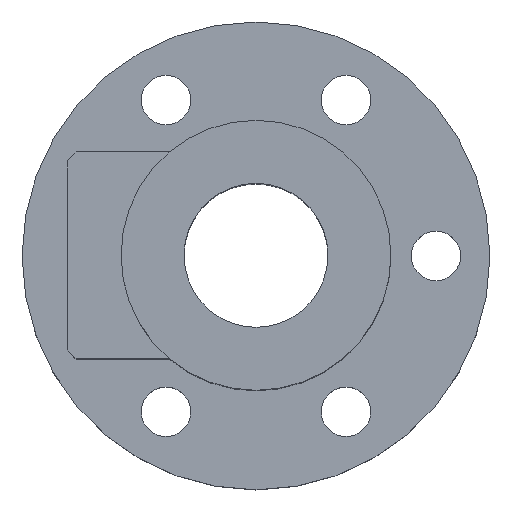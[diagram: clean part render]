
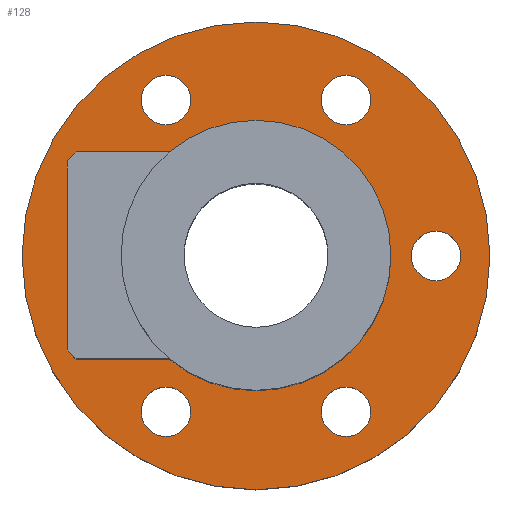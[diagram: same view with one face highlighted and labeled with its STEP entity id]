
A CAD part, top view. The second image highlights one B-rep face of the part: STEP entity #128.
In plain terms, the highlighted planar face has unit normal (0, 0, 1).
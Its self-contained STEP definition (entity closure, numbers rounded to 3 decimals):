
#97=PLANE('',#515);
#112=FACE_OUTER_BOUND('',#251,.T.);
#128=ADVANCED_FACE('',(#203,#204,#205,#112,#206,#207,#208),#97,.T.);
#203=FACE_BOUND('',#248,.T.);
#204=FACE_BOUND('',#249,.T.);
#205=FACE_BOUND('',#250,.T.);
#206=FACE_BOUND('',#252,.T.);
#207=FACE_BOUND('',#253,.T.);
#208=FACE_BOUND('',#254,.T.);
#248=EDGE_LOOP('',(#311));
#249=EDGE_LOOP('',(#312));
#250=EDGE_LOOP('',(#313));
#251=EDGE_LOOP('',(#314));
#252=EDGE_LOOP('',(#315));
#253=EDGE_LOOP('',(#316));
#254=EDGE_LOOP('',(#317));
#311=ORIENTED_EDGE('',*,*,#437,.F.);
#312=ORIENTED_EDGE('',*,*,#438,.F.);
#313=ORIENTED_EDGE('',*,*,#432,.F.);
#314=ORIENTED_EDGE('',*,*,#439,.T.);
#315=ORIENTED_EDGE('',*,*,#440,.F.);
#316=ORIENTED_EDGE('',*,*,#441,.F.);
#317=ORIENTED_EDGE('',*,*,#442,.F.);
#394=VERTEX_POINT('',#694);
#399=VERTEX_POINT('',#705);
#400=VERTEX_POINT('',#707);
#401=VERTEX_POINT('',#709);
#402=VERTEX_POINT('',#711);
#403=VERTEX_POINT('',#713);
#404=VERTEX_POINT('',#715);
#432=EDGE_CURVE('',#394,#394,#476,.T.);
#437=EDGE_CURVE('',#399,#399,#479,.T.);
#438=EDGE_CURVE('',#400,#400,#480,.T.);
#439=EDGE_CURVE('',#401,#401,#481,.T.);
#440=EDGE_CURVE('',#402,#402,#482,.T.);
#441=EDGE_CURVE('',#403,#403,#483,.T.);
#442=EDGE_CURVE('',#404,#404,#484,.T.);
#476=CIRCLE('',#505,15.);
#479=CIRCLE('',#509,2.75);
#480=CIRCLE('',#510,2.75);
#481=CIRCLE('',#511,26.);
#482=CIRCLE('',#512,2.75);
#483=CIRCLE('',#513,2.75);
#484=CIRCLE('',#514,2.75);
#505=AXIS2_PLACEMENT_3D('',#693,#564,#565);
#509=AXIS2_PLACEMENT_3D('',#704,#574,#575);
#510=AXIS2_PLACEMENT_3D('',#706,#576,#577);
#511=AXIS2_PLACEMENT_3D('',#708,#578,#579);
#512=AXIS2_PLACEMENT_3D('',#710,#580,#581);
#513=AXIS2_PLACEMENT_3D('',#712,#582,#583);
#514=AXIS2_PLACEMENT_3D('',#714,#584,#585);
#515=AXIS2_PLACEMENT_3D('',#716,#586,#587);
#564=DIRECTION('',(0.,0.,1.));
#565=DIRECTION('',(1.,0.,0.));
#574=DIRECTION('',(0.,0.,1.));
#575=DIRECTION('',(-0.5,-0.866,0.));
#576=DIRECTION('',(0.,0.,1.));
#577=DIRECTION('',(0.5,0.866,0.));
#578=DIRECTION('',(0.,0.,1.));
#579=DIRECTION('',(1.,0.,0.));
#580=DIRECTION('',(0.,0.,1.));
#581=DIRECTION('',(1.,0.,0.));
#582=DIRECTION('',(0.,0.,1.));
#583=DIRECTION('',(-1.,0.,0.));
#584=DIRECTION('',(0.,0.,1.));
#585=DIRECTION('',(0.5,-0.866,0.));
#586=DIRECTION('',(0.,0.,1.));
#587=DIRECTION('',(1.,0.,0.));
#693=CARTESIAN_POINT('',(0.,0.,10.));
#694=CARTESIAN_POINT('',(15.,0.,10.));
#704=CARTESIAN_POINT('',(10.,-17.321,10.));
#705=CARTESIAN_POINT('',(8.625,-19.702,10.));
#706=CARTESIAN_POINT('',(-10.,17.321,10.));
#707=CARTESIAN_POINT('',(-8.625,19.702,10.));
#708=CARTESIAN_POINT('',(0.,0.,10.));
#709=CARTESIAN_POINT('',(26.,0.,10.));
#710=CARTESIAN_POINT('',(10.,17.321,10.));
#711=CARTESIAN_POINT('',(12.75,17.321,10.));
#712=CARTESIAN_POINT('',(-10.,-17.321,10.));
#713=CARTESIAN_POINT('',(-12.75,-17.321,10.));
#714=CARTESIAN_POINT('',(20.,0.,10.));
#715=CARTESIAN_POINT('',(21.375,-2.382,10.));
#716=CARTESIAN_POINT('',(0.,0.,10.));
